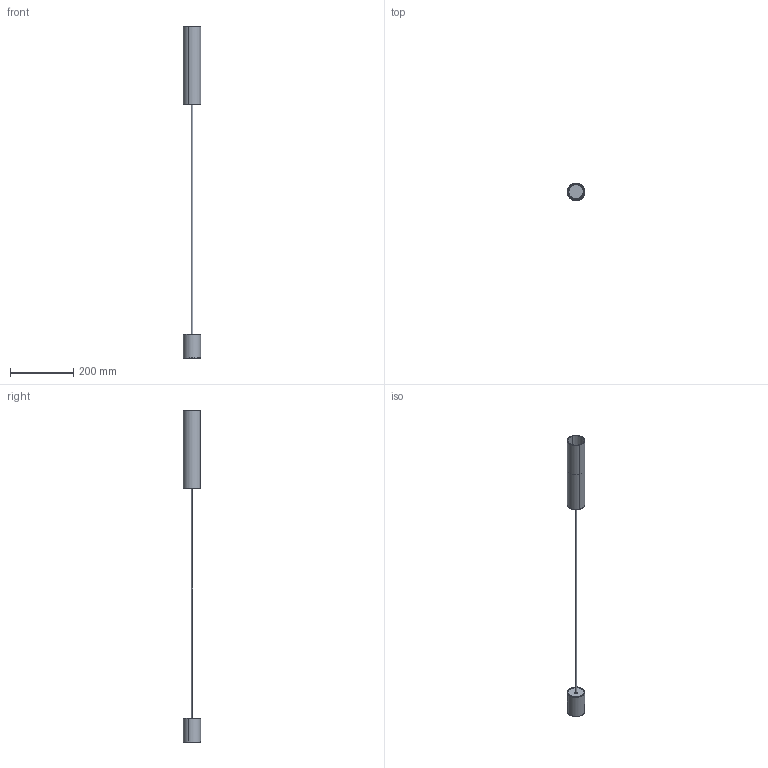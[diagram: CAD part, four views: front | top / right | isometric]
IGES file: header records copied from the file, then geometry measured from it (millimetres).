
Start section: SolidWorks IGES file using analytic representation for surfaces
Global section: file name: Z:\Modele 3D_WWW\_KOLEKCJE_WWW\EYE-M-5397-5398-5400-6840\EYE-M-5397-5398-5400-6840.IGS; native system: SolidWorks 2021; preprocessor: SolidWorks 2021; author: gabriela.tworek; date: 210623.080946; units: millimetre
Bounding box: 54.99 x 54.99 x 1052.54 mm (x, y, z)
Surface area: 145595.2 mm2 (no closed solid volume)
Topology: 0 solids, 0 shells, 122 faces, 2722 edges, 2722 vertices
Faces by surface type: revolution 75, bspline 47
